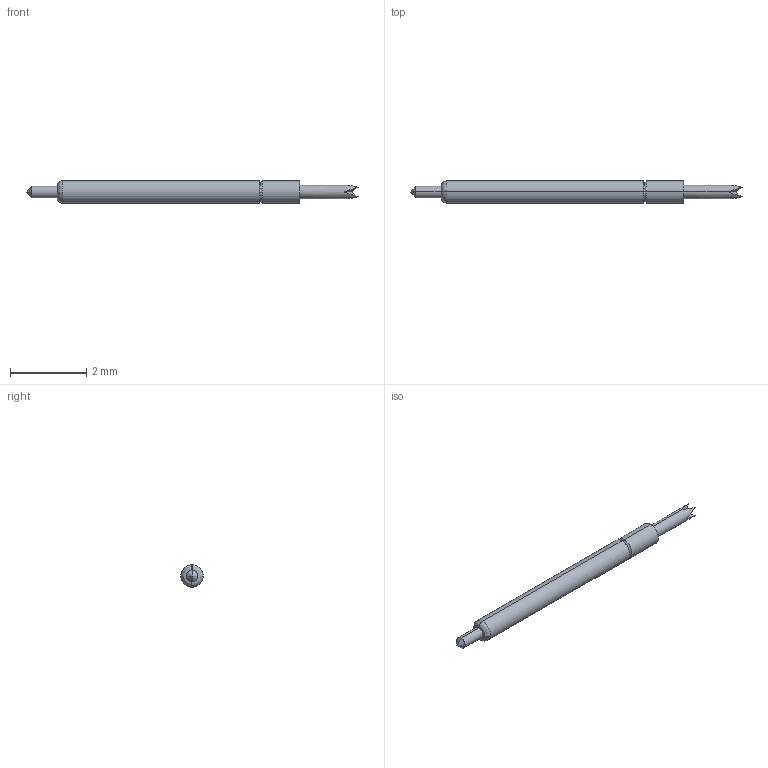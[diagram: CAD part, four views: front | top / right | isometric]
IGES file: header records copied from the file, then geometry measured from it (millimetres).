
Start section: SolidWorks IGES file using analytic representation for surfaces
Global section: file name: Z:\probe solid model mockups\Solidworks models\IGES Files\CSP8-25 IGES files\CSP8-25LB.IGS; native system: SolidWorks 2006 by SolidWorks Corporation; preprocessor: SolidWorks 2006 by SolidWorks Corporation; author: tsakatani; date: 080108.153724; units: inch
Bounding box: 8.69 x 0.58 x 0.58 mm (x, y, z)
Surface area: 14.5 mm2 (no closed solid volume)
Topology: 0 solids, 0 shells, 25 faces, 142 edges, 140 vertices
Faces by surface type: bspline 15, revolution 10
